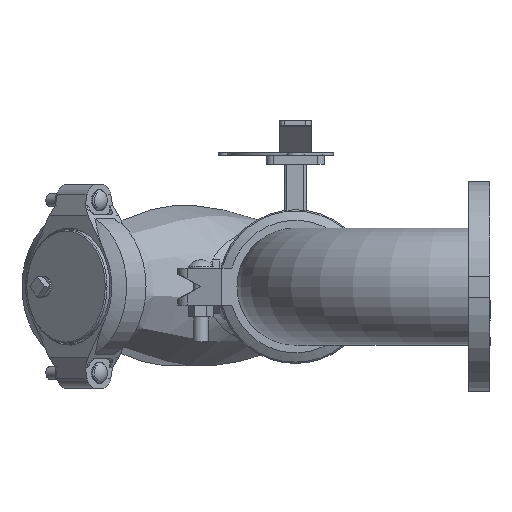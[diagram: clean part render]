
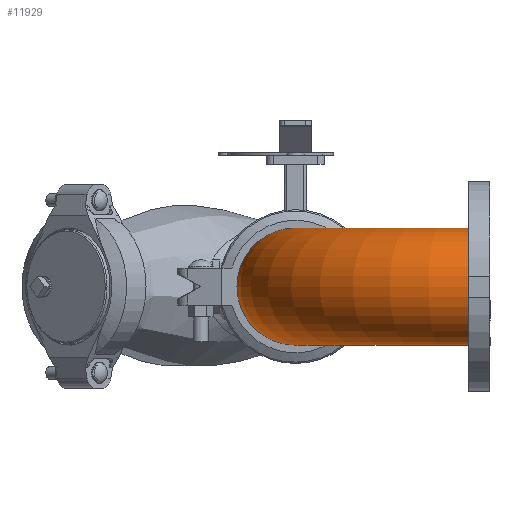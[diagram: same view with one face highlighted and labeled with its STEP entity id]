
A CAD part, front view. The second image highlights one B-rep face of the part: STEP entity #11929.
In plain terms, the highlighted toroidal (fillet/blend) face has major radius 209.55 mm and minor radius 70.65 mm.
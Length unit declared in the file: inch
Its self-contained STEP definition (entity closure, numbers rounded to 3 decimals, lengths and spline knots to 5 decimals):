
#112=TOROIDAL_SURFACE('',#13196,8.25,2.7815);
#2729=FACE_OUTER_BOUND('',#3431,.T.);
#3431=EDGE_LOOP('',(#8765,#8766,#8767,#8768));
#4146=CIRCLE('',#13181,2.7815);
#4149=CIRCLE('',#13185,2.7815);
#4159=CIRCLE('',#13197,5.4685);
#5009=VERTEX_POINT('',#22660);
#5012=VERTEX_POINT('',#22667);
#6363=EDGE_CURVE('',#5009,#5009,#4146,.T.);
#6366=EDGE_CURVE('',#5012,#5012,#4149,.T.);
#6376=EDGE_CURVE('',#5012,#5009,#4159,.T.);
#8765=ORIENTED_EDGE('',*,*,#6366,.T.);
#8766=ORIENTED_EDGE('',*,*,#6376,.T.);
#8767=ORIENTED_EDGE('',*,*,#6363,.F.);
#8768=ORIENTED_EDGE('',*,*,#6376,.F.);
#11929=ADVANCED_FACE('',(#2729),#112,.T.);
#13181=AXIS2_PLACEMENT_3D('',#22661,#15467,#15468);
#13185=AXIS2_PLACEMENT_3D('',#22668,#15475,#15476);
#13196=AXIS2_PLACEMENT_3D('',#22687,#15497,#15498);
#13197=AXIS2_PLACEMENT_3D('',#22688,#15499,#15500);
#15467=DIRECTION('center_axis',(0.,-1.,0.));
#15468=DIRECTION('ref_axis',(-1.,0.,0.));
#15475=DIRECTION('center_axis',(-1.,0.,0.));
#15476=DIRECTION('ref_axis',(0.,1.,0.));
#15497=DIRECTION('center_axis',(0.,0.,-1.));
#15498=DIRECTION('ref_axis',(-1.,0.,0.));
#15499=DIRECTION('center_axis',(0.,0.,1.));
#15500=DIRECTION('ref_axis',(-1.,0.,0.));
#22660=CARTESIAN_POINT('',(2.7815,1.,0.));
#22661=CARTESIAN_POINT('Origin',(0.,1.,0.));
#22667=CARTESIAN_POINT('',(8.25,6.4685,0.));
#22668=CARTESIAN_POINT('Origin',(8.25,9.25,0.));
#22687=CARTESIAN_POINT('Origin',(8.25,1.,0.));
#22688=CARTESIAN_POINT('Origin',(8.25,1.,0.));
